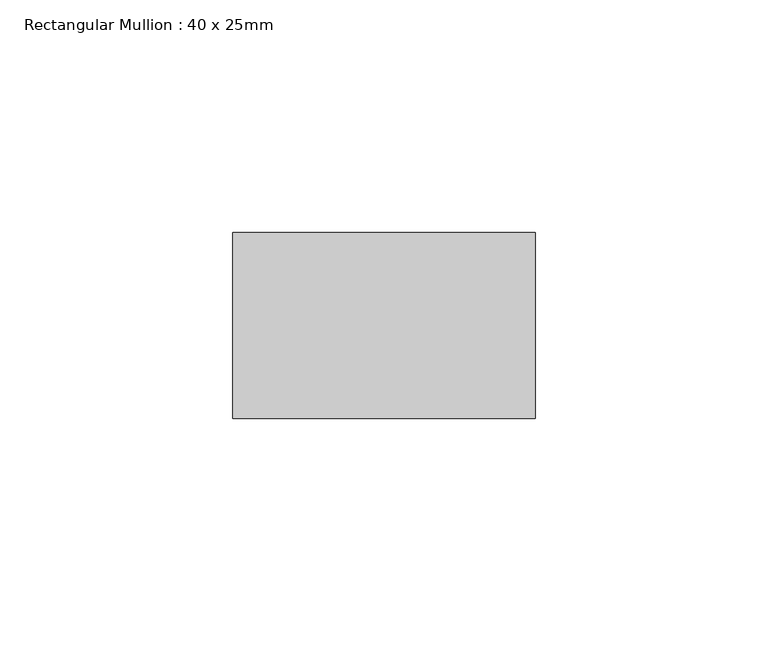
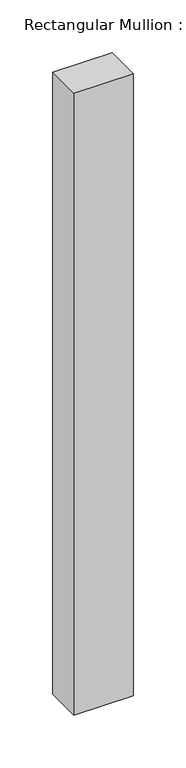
"""IFC4 building model written with IfcOpenShell, lengths in millimetres: member geometry, Rectangular Mullion : 40 x 25mm."""

from ifc_helpers import new_model, si_unit, frame, origin, place, context, project, spatial, polyline, outline, extrude, source, transform, mapped, element, save


def rectangular_mullion_40_x_25mm_55fdb4b2(model_context):
    return source(origin(), model_context, "Body", "SweptSolid", [
        extrude(outline(polyline([(0.0, -20.0), (0.0, -60.0), (-65.0, -60.0), (-65.0, -20.0), (0.0, -20.0)])), frame((0.0, 0.0, -720.2241278), z_axis=(0.0, 0.0, 1.0), x_axis=(1.0, 0.0, 0.0)), (0.0, 0.0, 1.0), 720.2241278),
    ])


if __name__ == "__main__":
    model = new_model("IFC4")
    model_context = context("Model", 3, world=origin())
    ifc_project = project(units=[si_unit("LENGTHUNIT", "METRE", prefix="MILLI")], contexts=[model_context])
    site = spatial("IfcSite", under=ifc_project)
    building = spatial("IfcBuilding", under=site)
    placement = place(None, origin())
    rectangular_mullion_40_x_25mm_shape = rectangular_mullion_40_x_25mm_55fdb4b2(model_context)
    element("IfcMember", 1, ObjectType="Rectangular Mullion : 40 x 25mm", at=placement, inside=building, context=model_context, shape_type="MappedRepresentation", body=[
        mapped(rectangular_mullion_40_x_25mm_shape, transform((0.0, 0.0, 0.0), x_axis=(1.0, 0.0, 0.0), y_axis=(0.0, 1.0, 0.0), z_axis=(0.0, 0.0, 1.0))),
    ])
    save(model, "model.ifc")
